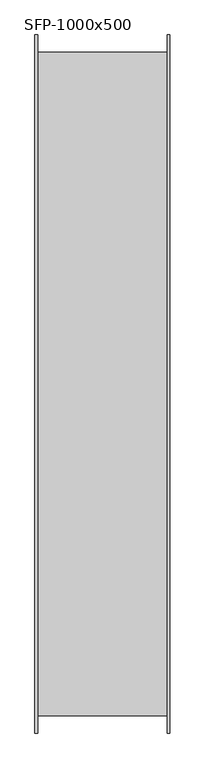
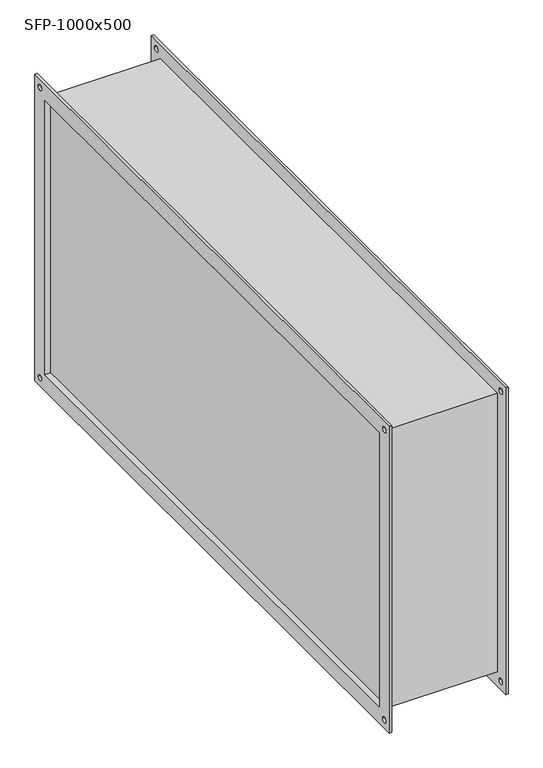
"""IFC4 building model written with IfcOpenShell, lengths in millimetres: damper geometry, СВ_ФильтрКассетный_КанальныйПрямоугольный_200-1000_SFP : SFP-1000x500."""

from ifc_helpers import new_model, si_unit, frame, origin, place, context, project, spatial, polyline, circle_curve, outline, extrude, source, transform, mapped, element, save
from ifc_brep_helpers import plane_surface, revolved_surface, advanced_brep


def sfp_1000x500_14118d60(model_context):
    return source(origin(), model_context, "Body", "SolidModel", [
        extrude(outline(polyline([(92.5, 500.0), (92.5, -500.0), (-92.5, -500.0), (-92.5, 500.0), (92.5, 500.0)])), frame((0.0, 0.0, -250.0), z_axis=(0.0, 0.0, 1.0), x_axis=(1.0, 0.0, 0.0)), (0.0, 0.0, 1.0), 500.0),
        advanced_brep(
        [(98.5, -504.0, 254.0), (-98.5, -504.0, 254.0), (-98.5, -504.0, -254.0), (98.5, -504.0, -254.0), (-98.5, 504.0, -254.0), (98.5, 504.0, -254.0), (-98.5, 504.0, 254.0), (98.5, 504.0, 254.0), (-102.5, -530.0, 280.0), (-102.5, 530.0, 280.0), (-102.5, 530.0, -280.0), (-102.5, -530.0, -280.0), (-102.5, -500.0, 250.0), (-102.5, -500.0, -250.0), (-102.5, 500.0, -250.0), (-102.5, 500.0, 250.0), (-102.5, 510.0, 265.0), (-102.5, 520.0, 265.0), (-102.5, -520.0, 265.0), (-102.5, -510.0, 265.0), (-102.5, -520.0, -265.0), (-102.5, -510.0, -265.0), (-102.5, 510.0, -265.0), (-102.5, 520.0, -265.0), (-98.5, -530.0, 280.0), (-98.5, -530.0, -280.0), (-98.5, 530.0, -280.0), (-98.5, 530.0, 280.0), (-98.5, 520.0, 265.0), (-98.5, 510.0, 265.0), (-98.5, -510.0, 265.0), (-98.5, -520.0, 265.0), (-98.5, -510.0, -265.0), (-98.5, -520.0, -265.0), (-98.5, 520.0, -265.0), (-98.5, 510.0, -265.0), (98.5, 530.0, 280.0), (98.5, 530.0, -280.0), (98.5, -530.0, -280.0), (98.5, -530.0, 280.0), (98.5, 510.0, 265.0), (98.5, 520.0, 265.0), (98.5, -520.0, 265.0), (98.5, -510.0, 265.0), (98.5, -520.0, -265.0), (98.5, -510.0, -265.0), (98.5, 510.0, -265.0), (98.5, 520.0, -265.0), (102.5, 530.0, 280.0), (102.5, -530.0, 280.0), (102.5, -530.0, -280.0), (102.5, 530.0, -280.0), (102.5, 500.0, 250.0), (102.5, 500.0, -250.0), (102.5, -500.0, -250.0), (102.5, -500.0, 250.0), (102.5, 520.0, 265.0), (102.5, 510.0, 265.0), (102.5, -510.0, 265.0), (102.5, -520.0, 265.0), (102.5, -510.0, -265.0), (102.5, -520.0, -265.0), (102.5, 520.0, -265.0), (102.5, 510.0, -265.0)],
        [
            (0, 1),
            (1, 2),
            (2, 3),
            (3, 0),
            (2, 4),
            (4, 5),
            (5, 3),
            (4, 6),
            (6, 7),
            (7, 5),
            (0, 7),
            (6, 1),
            (8, 9),
            (9, 10),
            (10, 11),
            (11, 8),
            (12, 13),
            (13, 14),
            (14, 15),
            (15, 12),
            (16, 17, circle_curve(frame((-102.5, 515.0, 265.0), z_axis=(1.0, 0.0, 0.0), x_axis=(0.0, 1.0, 0.0)), 5.0)),
            (17, 16, circle_curve(frame((-102.5, 515.0, 265.0), z_axis=(1.0, 0.0, 0.0), x_axis=(0.0, 1.0, 0.0)), 5.0)),
            (18, 19, circle_curve(frame((-102.5, -515.0, 265.0), z_axis=(1.0, 0.0, 0.0), x_axis=(0.0, 1.0, 0.0)), 5.0)),
            (19, 18, circle_curve(frame((-102.5, -515.0, 265.0), z_axis=(1.0, 0.0, 0.0), x_axis=(0.0, 1.0, 0.0)), 5.0)),
            (20, 21, circle_curve(frame((-102.5, -515.0, -265.0), z_axis=(1.0, 0.0, 0.0), x_axis=(0.0, 1.0, 0.0)), 5.0)),
            (21, 20, circle_curve(frame((-102.5, -515.0, -265.0), z_axis=(1.0, 0.0, 0.0), x_axis=(0.0, 1.0, 0.0)), 5.0)),
            (22, 23, circle_curve(frame((-102.5, 515.0, -265.0), z_axis=(1.0, 0.0, 0.0), x_axis=(0.0, 1.0, 0.0)), 5.0)),
            (23, 22, circle_curve(frame((-102.5, 515.0, -265.0), z_axis=(1.0, 0.0, 0.0), x_axis=(0.0, 1.0, 0.0)), 5.0)),
            (24, 25),
            (25, 26),
            (26, 27),
            (27, 24),
            (28, 29, circle_curve(frame((-98.5, 515.0, 265.0), z_axis=(-1.0, 0.0, 0.0), x_axis=(0.0, 1.0, 0.0)), 5.0)),
            (29, 28, circle_curve(frame((-98.5, 515.0, 265.0), z_axis=(-1.0, 0.0, 0.0), x_axis=(0.0, 1.0, 0.0)), 5.0)),
            (30, 31, circle_curve(frame((-98.5, -515.0, 265.0), z_axis=(-1.0, 0.0, 0.0), x_axis=(0.0, 1.0, 0.0)), 5.0)),
            (31, 30, circle_curve(frame((-98.5, -515.0, 265.0), z_axis=(-1.0, 0.0, 0.0), x_axis=(0.0, 1.0, 0.0)), 5.0)),
            (32, 33, circle_curve(frame((-98.5, -515.0, -265.0), z_axis=(-1.0, 0.0, 0.0), x_axis=(0.0, 1.0, 0.0)), 5.0)),
            (33, 32, circle_curve(frame((-98.5, -515.0, -265.0), z_axis=(-1.0, 0.0, 0.0), x_axis=(0.0, 1.0, 0.0)), 5.0)),
            (34, 35, circle_curve(frame((-98.5, 515.0, -265.0), z_axis=(-1.0, 0.0, 0.0), x_axis=(0.0, 1.0, 0.0)), 5.0)),
            (35, 34, circle_curve(frame((-98.5, 515.0, -265.0), z_axis=(-1.0, 0.0, 0.0), x_axis=(0.0, 1.0, 0.0)), 5.0)),
            (11, 25),
            (24, 8),
            (10, 26),
            (9, 27),
            (36, 37),
            (37, 38),
            (38, 39),
            (39, 36),
            (40, 41, circle_curve(frame((98.5, 515.0, 265.0), z_axis=(1.0, 0.0, 0.0), x_axis=(0.0, 1.0, 0.0)), 5.0)),
            (41, 40, circle_curve(frame((98.5, 515.0, 265.0), z_axis=(1.0, 0.0, 0.0), x_axis=(0.0, 1.0, 0.0)), 5.0)),
            (42, 43, circle_curve(frame((98.5, -515.0, 265.0), z_axis=(1.0, 0.0, 0.0), x_axis=(0.0, 1.0, 0.0)), 5.0)),
            (43, 42, circle_curve(frame((98.5, -515.0, 265.0), z_axis=(1.0, 0.0, 0.0), x_axis=(0.0, 1.0, 0.0)), 5.0)),
            (44, 45, circle_curve(frame((98.5, -515.0, -265.0), z_axis=(1.0, 0.0, 0.0), x_axis=(0.0, 1.0, 0.0)), 5.0)),
            (45, 44, circle_curve(frame((98.5, -515.0, -265.0), z_axis=(1.0, 0.0, 0.0), x_axis=(0.0, 1.0, 0.0)), 5.0)),
            (46, 47, circle_curve(frame((98.5, 515.0, -265.0), z_axis=(1.0, 0.0, 0.0), x_axis=(0.0, 1.0, 0.0)), 5.0)),
            (47, 46, circle_curve(frame((98.5, 515.0, -265.0), z_axis=(1.0, 0.0, 0.0), x_axis=(0.0, 1.0, 0.0)), 5.0)),
            (48, 49),
            (49, 50),
            (50, 51),
            (51, 48),
            (52, 53),
            (53, 54),
            (54, 55),
            (55, 52),
            (56, 57, circle_curve(frame((102.5, 515.0, 265.0), z_axis=(-1.0, 0.0, 0.0), x_axis=(0.0, 1.0, 0.0)), 5.0)),
            (57, 56, circle_curve(frame((102.5, 515.0, 265.0), z_axis=(-1.0, 0.0, 0.0), x_axis=(0.0, 1.0, 0.0)), 5.0)),
            (58, 59, circle_curve(frame((102.5, -515.0, 265.0), z_axis=(-1.0, 0.0, 0.0), x_axis=(0.0, 1.0, 0.0)), 5.0)),
            (59, 58, circle_curve(frame((102.5, -515.0, 265.0), z_axis=(-1.0, 0.0, 0.0), x_axis=(0.0, 1.0, 0.0)), 5.0)),
            (60, 61, circle_curve(frame((102.5, -515.0, -265.0), z_axis=(-1.0, 0.0, 0.0), x_axis=(0.0, 1.0, 0.0)), 5.0)),
            (61, 60, circle_curve(frame((102.5, -515.0, -265.0), z_axis=(-1.0, 0.0, 0.0), x_axis=(0.0, 1.0, 0.0)), 5.0)),
            (62, 63, circle_curve(frame((102.5, 515.0, -265.0), z_axis=(-1.0, 0.0, 0.0), x_axis=(0.0, 1.0, 0.0)), 5.0)),
            (63, 62, circle_curve(frame((102.5, 515.0, -265.0), z_axis=(-1.0, 0.0, 0.0), x_axis=(0.0, 1.0, 0.0)), 5.0)),
            (39, 49),
            (48, 36),
            (38, 50),
            (37, 51),
            (15, 52),
            (55, 12),
            (14, 53),
            (13, 54),
            (16, 29),
            (28, 17),
            (40, 57),
            (56, 41),
            (18, 31),
            (30, 19),
            (42, 59),
            (58, 43),
            (20, 33),
            (32, 21),
            (44, 61),
            (60, 45),
            (22, 35),
            (34, 23),
            (46, 63),
            (62, 47),
        ],
        [
            plane_surface(frame((98.5, -504.0, 254.0), z_axis=(0.0, -1.0, 0.0), x_axis=(-1.0, 0.0, 0.0))),
            plane_surface(frame((98.5, -504.0, -254.0), z_axis=(0.0, 0.0, -1.0), x_axis=(-1.0, 0.0, 0.0))),
            plane_surface(frame((98.5, 504.0, -254.0), z_axis=(0.0, 1.0, 0.0), x_axis=(-1.0, 0.0, 0.0))),
            plane_surface(frame((98.5, 504.0, 254.0), z_axis=(0.0, 0.0, 1.0), x_axis=(-1.0, 0.0, 0.0))),
            plane_surface(frame((-102.5, -530.0, 280.0), z_axis=(-1.0, 0.0, 0.0), x_axis=(0.0, 0.0, 1.0))),
            plane_surface(frame((-98.5, -530.0, 280.0), z_axis=(1.0, 0.0, 0.0), x_axis=(0.0, 0.0, -1.0))),
            plane_surface(frame((-98.5, -530.0, 280.0), z_axis=(0.0, -1.0, 0.0), x_axis=(-1.0, 0.0, 0.0))),
            plane_surface(frame((-98.5, -530.0, -280.0), z_axis=(0.0, 0.0, -1.0), x_axis=(-1.0, 0.0, 0.0))),
            plane_surface(frame((-98.5, 530.0, -280.0), z_axis=(0.0, 1.0, 0.0), x_axis=(-1.0, 0.0, 0.0))),
            plane_surface(frame((-98.5, 530.0, 280.0), z_axis=(0.0, 0.0, 1.0), x_axis=(-1.0, 0.0, 0.0))),
            plane_surface(frame((98.5, 500.0, -250.0), z_axis=(-1.0, 0.0, 0.0), x_axis=(0.0, 0.0, 1.0))),
            plane_surface(frame((102.5, 500.0, -250.0), z_axis=(1.0, 0.0, 0.0), x_axis=(0.0, 0.0, -1.0))),
            plane_surface(frame((102.5, 530.0, 280.0), z_axis=(0.0, 0.0, 1.0), x_axis=(-1.0, 0.0, 0.0))),
            plane_surface(frame((102.5, -530.0, 280.0), z_axis=(0.0, -1.0, 0.0), x_axis=(-1.0, 0.0, 0.0))),
            plane_surface(frame((102.5, -530.0, -280.0), z_axis=(0.0, 0.0, -1.0), x_axis=(-1.0, 0.0, 0.0))),
            plane_surface(frame((102.5, 530.0, -280.0), z_axis=(0.0, 1.0, 0.0), x_axis=(-1.0, 0.0, 0.0))),
            plane_surface(frame((-98.5, -500.0, 250.0), z_axis=(0.0, 0.0, -1.0), x_axis=(-1.0, 0.0, 0.0))),
            plane_surface(frame((-98.5, 500.0, 250.0), z_axis=(0.0, -1.0, 0.0), x_axis=(-1.0, 0.0, 0.0))),
            plane_surface(frame((-98.5, 500.0, -250.0), z_axis=(0.0, 0.0, 1.0), x_axis=(-1.0, 0.0, 0.0))),
            plane_surface(frame((-98.5, -500.0, -250.0), z_axis=(0.0, 1.0, 0.0), x_axis=(-1.0, 0.0, 0.0))),
            revolved_surface(polyline([(-98.5, 520.0, 265.0), (-102.5, 520.0, 265.0)]), (-102.5, 515.0, 265.0), (1.0, 0.0, 0.0)),
            revolved_surface(polyline([(102.5, 520.0, 265.0), (98.5, 520.0, 265.0)]), (-102.5, 515.0, 265.0), (1.0, 0.0, 0.0)),
            revolved_surface(polyline([(-98.5, -510.0, 265.0), (-102.5, -510.0, 265.0)]), (0.0, -515.0, 265.0), (1.0, 0.0, 0.0)),
            revolved_surface(polyline([(102.5, -510.0, 265.0), (98.5, -510.0, 265.0)]), (0.0, -515.0, 265.0), (1.0, 0.0, 0.0)),
            revolved_surface(polyline([(-98.5, -510.0, -265.0), (-102.5, -510.0, -265.0)]), (0.0, -515.0, -265.0), (1.0, 0.0, 0.0)),
            revolved_surface(polyline([(102.5, -510.0, -265.0), (98.5, -510.0, -265.0)]), (0.0, -515.0, -265.0), (1.0, 0.0, 0.0)),
            revolved_surface(polyline([(-98.5, 520.0, -265.0), (-102.5, 520.0, -265.0)]), (0.0, 515.0, -265.0), (1.0, 0.0, 0.0)),
            revolved_surface(polyline([(102.5, 520.0, -265.0), (98.5, 520.0, -265.0)]), (0.0, 515.0, -265.0), (1.0, 0.0, 0.0)),
        ],
        [
            (0, [[1, 2, 3, 4]]),
            (1, [[-3, 5, 6, 7]]),
            (2, [[-6, 8, 9, 10]]),
            (3, [[-1, 11, -9, 12]]),
            (4, [[13, 14, 15, 16], [17, 18, 19, 20], [21, 22], [23, 24], [25, 26], [27, 28]]),
            (5, [[29, 30, 31, 32], [-2, -12, -8, -5], [33, 34], [35, 36], [37, 38], [39, 40]]),
            (6, [[-16, 41, -29, 42]]),
            (7, [[-15, 43, -30, -41]]),
            (8, [[-14, 44, -31, -43]]),
            (9, [[-13, -42, -32, -44]]),
            (10, [[45, 46, 47, 48], [-4, -7, -10, -11], [49, 50], [51, 52], [53, 54], [55, 56]]),
            (11, [[57, 58, 59, 60], [61, 62, 63, 64], [65, 66], [67, 68], [69, 70], [71, 72]]),
            (12, [[-48, 73, -57, 74]]),
            (13, [[-47, 75, -58, -73]]),
            (14, [[-46, 76, -59, -75]]),
            (15, [[-45, -74, -60, -76]]),
            (16, [[-20, 77, -64, 78]]),
            (17, [[-77, -19, 79, -61]]),
            (18, [[-79, -18, 80, -62]]),
            (19, [[-80, -17, -78, -63]]),
            (20, [[81, -33, 82, -21]]),
            (21, [[83, -65, 84, -49]]),
            (20, [[-81, -22, -82, -34]]),
            (21, [[-83, -50, -84, -66]]),
            (22, [[85, -35, 86, -23]]),
            (23, [[87, -67, 88, -51]]),
            (22, [[-85, -24, -86, -36]]),
            (23, [[-87, -52, -88, -68]]),
            (24, [[89, -37, 90, -25]]),
            (25, [[91, -69, 92, -53]]),
            (24, [[-89, -26, -90, -38]]),
            (25, [[-91, -54, -92, -70]]),
            (26, [[93, -39, 94, -27]]),
            (27, [[95, -71, 96, -55]]),
            (26, [[-93, -28, -94, -40]]),
            (27, [[-95, -56, -96, -72]]),
        ],
    ),
    ])


if __name__ == "__main__":
    model = new_model("IFC4")
    model_context = context("Model", 3, world=origin())
    ifc_project = project(units=[si_unit("LENGTHUNIT", "METRE", prefix="MILLI")], contexts=[model_context])
    site = spatial("IfcSite", under=ifc_project)
    building = spatial("IfcBuilding", under=site)
    placement = place(None, origin())
    sfp_1000x500_shape = sfp_1000x500_14118d60(model_context)
    element("IfcDamper", 1, ObjectType="СВ_ФильтрКассетный_КанальныйПрямоугольный_200-1000_SFP : SFP-1000x500", at=placement, inside=building, context=model_context, shape_type="MappedRepresentation", body=[
        mapped(sfp_1000x500_shape, transform((0.0, 0.0, 0.0), x_axis=(1.0, 0.0, 0.0), y_axis=(0.0, 1.0, 0.0), z_axis=(0.0, 0.0, 1.0))),
    ])
    save(model, "model.ifc")
